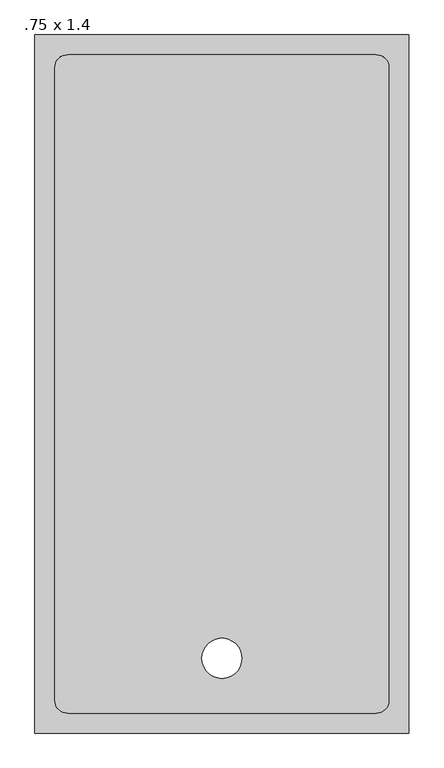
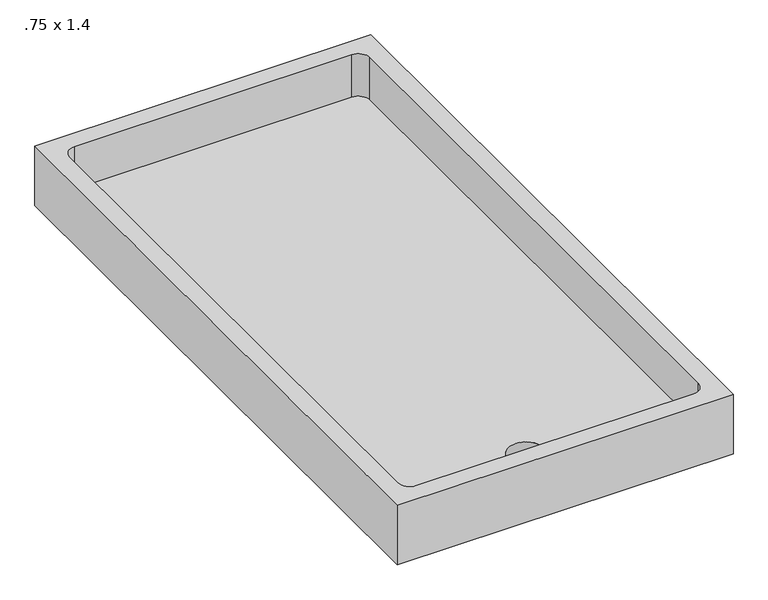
"""IFC4 building model written with IfcOpenShell, lengths in millimetres: flow terminal geometry, Cubeta de ducha - Desagüe axial : .75 x 1.4."""

from ifc_helpers import new_model, si_unit, frame, origin, place, context, project, spatial, polyline, circle_curve, source, transform, mapped, element, save
from ifc_brep_helpers import plane_surface, revolved_surface, advanced_brep


def flow_terminal_75_x_1_4_3fb2c740(model_context):
    return source(origin(), model_context, "Body", "AdvancedBrep", [
        advanced_brep(
        [(375.0, 700.0, 140.0), (-375.0, 700.0, 140.0), (-375.0, -700.0, 140.0), (375.0, -700.0, 140.0), (335.0, -634.6, 140.0), (309.6, -660.0, 140.0), (-309.6, -660.0, 140.0), (-335.0, -634.6, 140.0), (-335.0, 634.6, 140.0), (-309.6, 660.0, 140.0), (309.6, 660.0, 140.0), (335.0, 634.6, 140.0), (375.0, 700.0, 0.0), (375.0, -700.0, 0.0), (-375.0, -700.0, 0.0), (-375.0, 700.0, 0.0), (-40.0, -550.0, 0.0), (40.0, -550.0, 0.0), (309.6, -660.0, 40.0), (335.0, -634.6, 40.0), (335.0, 634.6, 40.0), (309.6, 660.0, 40.0), (-309.6, 660.0, 40.0), (-335.0, 634.6, 40.0), (-335.0, -634.6, 40.0), (-309.6, -660.0, 40.0), (40.0, -550.0, 40.0), (-40.0, -550.0, 40.0)],
        [
            (0, 1),
            (1, 2),
            (2, 3),
            (3, 0),
            (4, 5, circle_curve(frame((309.6, -634.6, 140.0), z_axis=(0.0, 0.0, -1.0), x_axis=(1.0, 0.0, 0.0)), 25.4)),
            (5, 6),
            (6, 7, circle_curve(frame((-309.6, -634.6, 140.0), z_axis=(0.0, 0.0, -1.0), x_axis=(1.0, 0.0, 0.0)), 25.4)),
            (7, 8),
            (8, 9, circle_curve(frame((-309.6, 634.6, 140.0), z_axis=(0.0, 0.0, -1.0), x_axis=(1.0, 0.0, 0.0)), 25.4)),
            (9, 10),
            (10, 11, circle_curve(frame((309.6, 634.6, 140.0), z_axis=(0.0, 0.0, -1.0), x_axis=(1.0, 0.0, 0.0)), 25.4)),
            (11, 4),
            (12, 13),
            (13, 14),
            (14, 15),
            (15, 12),
            (16, 17, circle_curve(frame((0.0, -550.0, 0.0), z_axis=(0.0, 0.0, 1.0), x_axis=(1.0, 0.0, 0.0)), 40.0)),
            (17, 16, circle_curve(frame((0.0, -550.0, 0.0), z_axis=(0.0, 0.0, 1.0), x_axis=(1.0, 0.0, 0.0)), 40.0)),
            (0, 12),
            (15, 1),
            (14, 2),
            (13, 3),
            (18, 19, circle_curve(frame((309.6, -634.6, 40.0), z_axis=(0.0, 0.0, 1.0), x_axis=(1.0, 0.0, 0.0)), 25.4)),
            (19, 20),
            (20, 21, circle_curve(frame((309.6, 634.6, 40.0), z_axis=(0.0, 0.0, 1.0), x_axis=(1.0, 0.0, 0.0)), 25.4)),
            (21, 22),
            (22, 23, circle_curve(frame((-309.6, 634.6, 40.0), z_axis=(0.0, 0.0, 1.0), x_axis=(1.0, 0.0, 0.0)), 25.4)),
            (23, 24),
            (24, 25, circle_curve(frame((-309.6, -634.6, 40.0), z_axis=(0.0, 0.0, 1.0), x_axis=(1.0, 0.0, 0.0)), 25.4)),
            (25, 18),
            (26, 27, circle_curve(frame((0.0, -550.0, 40.0), z_axis=(0.0, 0.0, -1.0), x_axis=(1.0, 0.0, 0.0)), 40.0)),
            (27, 26, circle_curve(frame((0.0, -550.0, 40.0), z_axis=(0.0, 0.0, -1.0), x_axis=(1.0, 0.0, 0.0)), 40.0)),
            (18, 5),
            (4, 19),
            (11, 20),
            (10, 21),
            (9, 22),
            (8, 23),
            (7, 24),
            (6, 25),
            (16, 27),
            (26, 17),
        ],
        [
            plane_surface(frame((-375.0, 700.0, 140.0), z_axis=(0.0, 0.0, 1.0), x_axis=(-1.0, 0.0, 0.0))),
            plane_surface(frame((-375.0, 700.0, 0.0), z_axis=(0.0, 0.0, -1.0), x_axis=(1.0, 0.0, 0.0))),
            plane_surface(frame((375.0, 700.0, 140.0), z_axis=(0.0, 1.0, 0.0), x_axis=(0.0, 0.0, -1.0))),
            plane_surface(frame((-375.0, 700.0, 140.0), z_axis=(-1.0, 0.0, 0.0), x_axis=(0.0, 0.0, -1.0))),
            plane_surface(frame((-375.0, -700.0, 140.0), z_axis=(0.0, -1.0, 0.0), x_axis=(0.0, 0.0, -1.0))),
            plane_surface(frame((375.0, -700.0, 140.0), z_axis=(1.0, 0.0, 0.0), x_axis=(0.0, 0.0, -1.0))),
            plane_surface(frame((335.0, -634.6, 40.0), z_axis=(0.0, 0.0, 1.0), x_axis=(0.0, -1.0, 0.0))),
            revolved_surface(polyline([(335.0, -634.6, 140.0), (335.0, -634.6, 40.0)]), (309.6, -634.6, 40.0), (0.0, 0.0, 1.0)),
            plane_surface(frame((335.0, -634.6, 140.0), z_axis=(-1.0, 0.0, 0.0), x_axis=(0.0, 0.0, -1.0))),
            revolved_surface(polyline([(335.0, 634.6, 140.0), (335.0, 634.6, 40.0)]), (309.6, 634.6, 40.0), (0.0, 0.0, 1.0)),
            plane_surface(frame((309.6, 660.0, 140.0), z_axis=(0.0, -1.0, 0.0), x_axis=(0.0, 0.0, -1.0))),
            revolved_surface(polyline([(-284.20000000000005, 634.6, 140.0), (-284.20000000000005, 634.6, 40.0)]), (-309.6, 634.6, 40.0), (0.0, 0.0, 1.0)),
            plane_surface(frame((-335.0, 634.6, 140.0), z_axis=(1.0, 0.0, 0.0), x_axis=(0.0, 0.0, -1.0))),
            revolved_surface(polyline([(-284.20000000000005, -634.6, 140.0), (-284.20000000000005, -634.6, 40.0)]), (-309.6, -634.6, 40.0), (0.0, 0.0, 1.0)),
            plane_surface(frame((-309.6, -660.0, 140.0), z_axis=(0.0, 1.0, 0.0), x_axis=(0.0, 0.0, -1.0))),
            revolved_surface(polyline([(40.0, -550.0, 40.0), (40.0, -550.0, 0.0)]), (0.0, -550.0, 0.0), (0.0, 0.0, 1.0)),
        ],
        [
            (0, [[1, 2, 3, 4], [5, 6, 7, 8, 9, 10, 11, 12]]),
            (1, [[13, 14, 15, 16], [17, 18]]),
            (2, [[-1, 19, -16, 20]]),
            (3, [[-2, -20, -15, 21]]),
            (4, [[-3, -21, -14, 22]]),
            (5, [[-4, -22, -13, -19]]),
            (6, [[23, 24, 25, 26, 27, 28, 29, 30], [31, 32]]),
            (7, [[-23, 33, -5, 34]]),
            (8, [[-24, -34, -12, 35]]),
            (9, [[-25, -35, -11, 36]]),
            (10, [[-26, -36, -10, 37]]),
            (11, [[-27, -37, -9, 38]]),
            (12, [[-28, -38, -8, 39]]),
            (13, [[-29, -39, -7, 40]]),
            (14, [[-30, -40, -6, -33]]),
            (15, [[41, -31, 42, -17]]),
            (15, [[-41, -18, -42, -32]]),
        ],
    ),
    ])


if __name__ == "__main__":
    model = new_model("IFC4")
    model_context = context("Model", 3, world=origin())
    ifc_project = project(units=[si_unit("LENGTHUNIT", "METRE", prefix="MILLI")], contexts=[model_context])
    site = spatial("IfcSite", under=ifc_project)
    building = spatial("IfcBuilding", under=site)
    placement = place(None, origin())
    flow_terminal_75_x_1_4_shape = flow_terminal_75_x_1_4_3fb2c740(model_context)
    element("IfcFlowTerminal", 1, ObjectType="Cubeta de ducha - Desagüe axial : .75 x 1.4", at=placement, inside=building, context=model_context, shape_type="MappedRepresentation", body=[
        mapped(flow_terminal_75_x_1_4_shape, transform((0.0, 0.0, 0.0), x_axis=(1.0, 0.0, 0.0), y_axis=(0.0, 1.0, 0.0), z_axis=(0.0, 0.0, 1.0))),
    ])
    save(model, "model.ifc")
